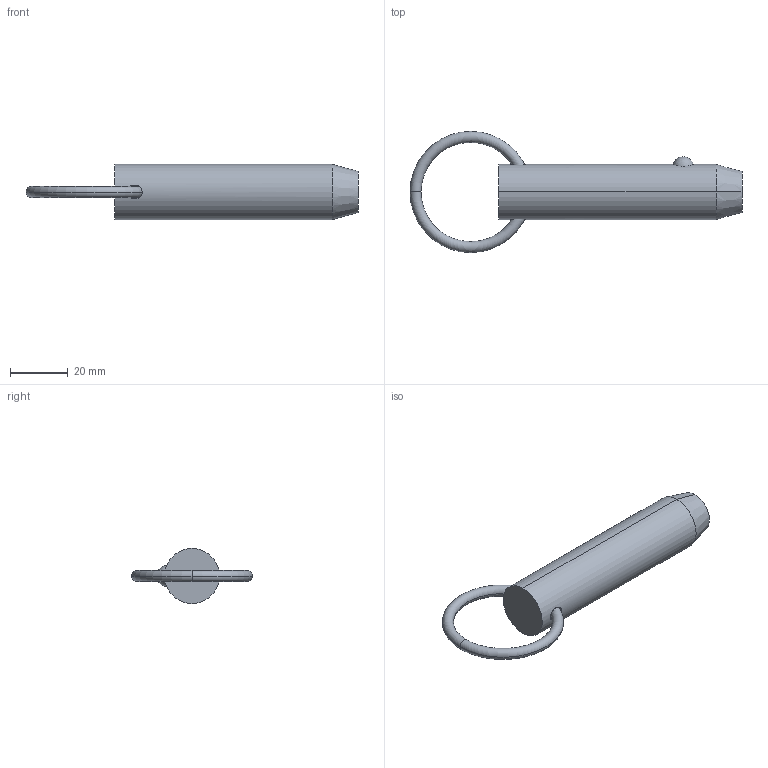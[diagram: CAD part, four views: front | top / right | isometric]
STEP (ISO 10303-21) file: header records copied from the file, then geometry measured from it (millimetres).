
FILE_DESCRIPTION (( 'STEP AP203' ), '1' );
FILE_NAME ('33010.W7520.step', '2024-11-01T10:43:34', ( '' ), ( '' ), 'SwSTEP 2.0', 'SolidWorks 2019', '' );
FILE_SCHEMA (( 'CONFIG_CONTROL_DESIGN' ));
Length unit declared in the file: millimetre
Products named in the file (3): Part2_33010.W7520; Part1_33010.W7520; 33010.W7520
Assembly tree (2 placements, depth 2):
  33010.W7520
    Part1_33010.W7520
    Part2_33010.W7520
Bounding box: 114.75 x 41.91 x 19.05 mm (x, y, z)
Volume: 24479.9 mm3; surface area: 7143.7 mm2
Topology: 2 solids, 2 shells, 16 faces, 31 edges, 18 vertices
Faces by surface type: torus 8, sphere 2, cone 2, cylinder 2, plane 2
Entity records: 893 total; most frequent: CARTESIAN_POINT 250, DIRECTION 88, ORIENTED_EDGE 62, AXIS2_PLACEMENT_3D 42, EDGE_CURVE 31, PERSON_AND_ORGANIZATION 26, CIRCLE 21, LOCAL_TIME 19
